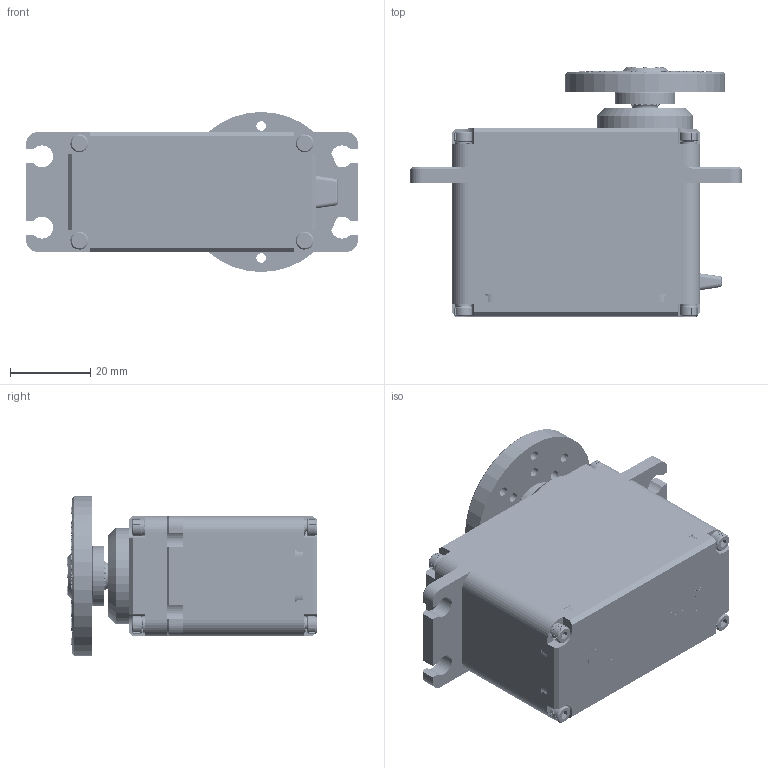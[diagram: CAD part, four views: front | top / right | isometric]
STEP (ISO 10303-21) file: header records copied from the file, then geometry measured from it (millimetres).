
FILE_DESCRIPTION((''),'2;1');
FILE_NAME('DB1200WP_ASSY_ASM','2023-07-24T',('sangmin.kim'),(''),'CREO PARAMETRIC BY PTC INC, 2016050','CREO PARAMETRIC BY PTC INC, 2016050','');
FILE_SCHEMA(('CONFIG_CONTROL_DESIGN'));
Products named in the file (14): DB1200T_AL6061_120101010195; DB1200M_AL6061_120101020178; DB1200L_AL6061_120101030214; DB1200SG5-P; MD30SG5_ASM; WP_3P_BUSHING_120105020030; SW_M2_5_SUS316_DIN7980; 120201000126_SCM435_HSH_M2_5XL6; HSH_M2_5XL30_12XXXXXXXXXX; Q-OA15_PA66_120217000167; 120209000010_BUSH_PI15_PI12_L3; TW_6_5X3_2_SUS_120204000048; 120201000139_SUS304_CBH_M3XL8; DB1200WP_ASSY_ASM
Assembly tree (26 placements, depth 3):
  DB1200WP_ASSY_ASM
    DB1200T_AL6061_120101010195
    DB1200M_AL6061_120101020178
    DB1200L_AL6061_120101030214
    MD30SG5_ASM
      DB1200SG5-P
    WP_3P_BUSHING_120105020030
    SW_M2_5_SUS316_DIN7980  x8
    120201000126_SCM435_HSH_M2_5XL6  x4
    HSH_M2_5XL30_12XXXXXXXXXX  x4
    Q-OA15_PA66_120217000167
    120209000010_BUSH_PI15_PI12_L3
    TW_6_5X3_2_SUS_120204000048
    120201000139_SUS304_CBH_M3XL8
Bounding box: 83 x 62.3 x 40 mm (x, y, z)
Volume: 94385.1 mm3; surface area: 30960.5 mm2
Topology: 25 solids, 25 shells, 5489 faces, 15632 edges, 10306 vertices
Faces by surface type: plane 4075, cylinder 860, bspline 325, cone 137, torus 50, extrusion 40, sphere 2
Entity records: 158816 total; most frequent: CARTESIAN_POINT 43890, ORIENTED_EDGE 18462, DIRECTION 15485, PRESENTATION_STYLE_ASSIGNMENT 9739, STYLED_ITEM 9724, CURVE_STYLE 9231, EDGE_CURVE 9231, VECTOR 7199
